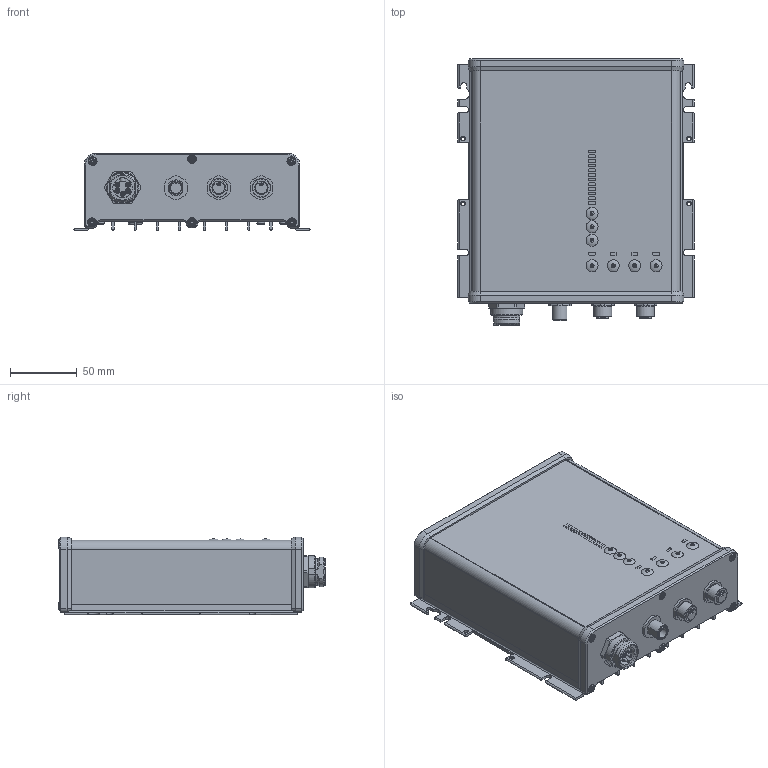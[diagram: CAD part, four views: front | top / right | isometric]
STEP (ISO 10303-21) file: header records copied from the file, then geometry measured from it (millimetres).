
FILE_DESCRIPTION(/* description */ ('STEP AP203'),/* implementation_level */ '2;1');
FILE_NAME(/* name */ 'P_MZ_E200_0114',/* time_stamp */ '2023-01-20T11:31:32+01:00',/* author */ ('License CC BY-ND 4.0'),/* organization */ ('CADENAS'),/* preprocessor_version */ 'ST-DEVELOPER v18.102',/* originating_system */ 'PARTsolutions',/* authorisation */ ' ');
FILE_SCHEMA (('CONFIG_CONTROL_DESIGN'));
Length unit declared in the file: millimetre
Products named in the file (1): P_MZ_E200_0114
Bounding box: 177 x 199.8 x 58.35 mm (x, y, z)
Volume: 1408447.3 mm3; surface area: 137548 mm2
Topology: 1 solids, 1 shells, 1222 faces, 3200 edges, 2096 vertices
Faces by surface type: cylinder 624, plane 471, torus 63, cone 62, sphere 2
Full cylindrical faces by diameter (mm): 0.8 x6, 1.5 x2, 2 x11, 2.7 x4, 3 x5, 5.6 x6, 6 x5, 7 x11, 8.3 x1, 10.106 x2, 10.4 x1, 18.5 x1
Entity records: 45766 total; most frequent: DIRECTION 6765, CARTESIAN_POINT 6745, ORIENTED_EDGE 6036, EDGE_CURVE 3018, AXIS2_PLACEMENT_3D 2643, VERTEX_POINT 2057, FACE_BOUND 1489, EDGE_LOOP 1482
